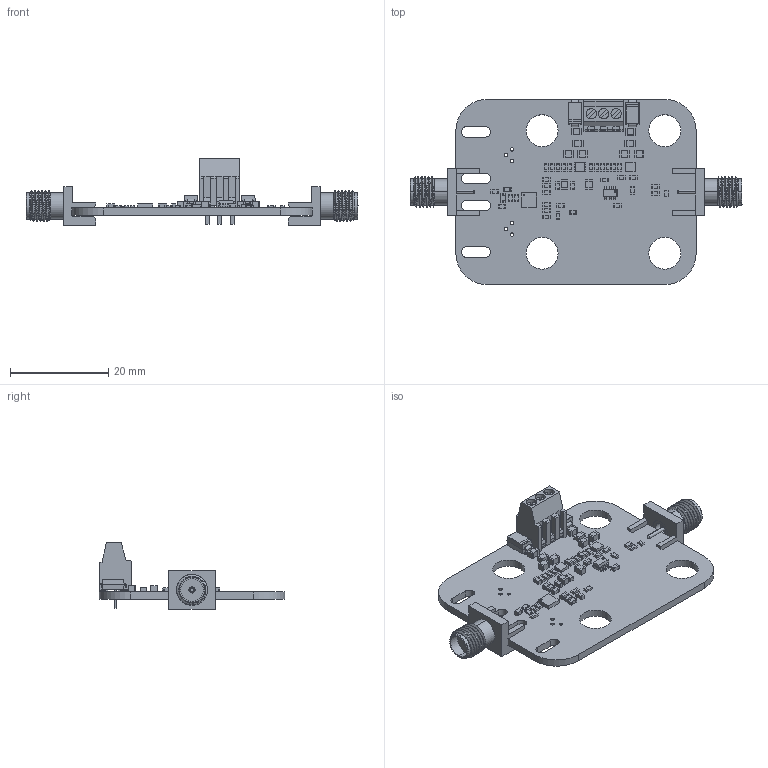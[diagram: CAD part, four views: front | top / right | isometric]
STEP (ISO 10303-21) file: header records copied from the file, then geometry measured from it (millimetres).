
FILE_DESCRIPTION(('Open CASCADE Model'),'2;1');
FILE_NAME('Open CASCADE Shape Model','2020-04-21T12:57:34',('Author'),( 'Open CASCADE'),'Open CASCADE STEP processor 6.8','Open CASCADE 6.8' ,'Unknown');
FILE_SCHEMA(('AUTOMOTIVE_DESIGN { 1 0 10303 214 1 1 1 1 }'));
Length unit declared in the file: millimetre
Products named in the file (95): PD10
Assembly tree (216 placements, depth 4):
  PD10
    PD10
    PD10
      PD10
      PD10
      PD10
    PD10
      PD10
      PD10
      PD10
    PD10
      PD10
      PD10
      PD10
    PD10
      PD10
        PD10
    PD10
      PD10
    PD10
      PD10
      PD10
      PD10
    PD10
      PD10
      PD10
      PD10
    PD10
      PD10
      PD10
      PD10
    PD10
      PD10
      PD10
      PD10
    PD10
      PD10
      PD10
      PD10
    PD10
      PD10
      PD10
      PD10
    PD10
      PD10
      PD10
      PD10
    PD10
      PD10
      PD10
      PD10
    PD10
      PD10
      PD10
      PD10
    PD10
      PD10
      PD10
      PD10
    PD10
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Bounding box: 67.69 x 37.8 x 13.6 mm (x, y, z)
Volume: 3668 mm3; surface area: 6107.4 mm2
Topology: 154 solids, 246 shells, 1647 faces, 3941 edges, 2716 vertices
Faces by surface type: plane 1399, cylinder 226, cone 16, bspline 4, sphere 2
Full cylindrical faces by diameter (mm): 0.254 x1, 0.7 x6, 1.2 x3, 6.5 x4
Entity records: 29167 total; most frequent: CARTESIAN_POINT 4901, DIRECTION 3964, ORIENTED_EDGE 3533, EDGE_CURVE 1919, LINE 1578, VECTOR 1578, VERTEX_POINT 1297, AXIS2_PLACEMENT_3D 1193
